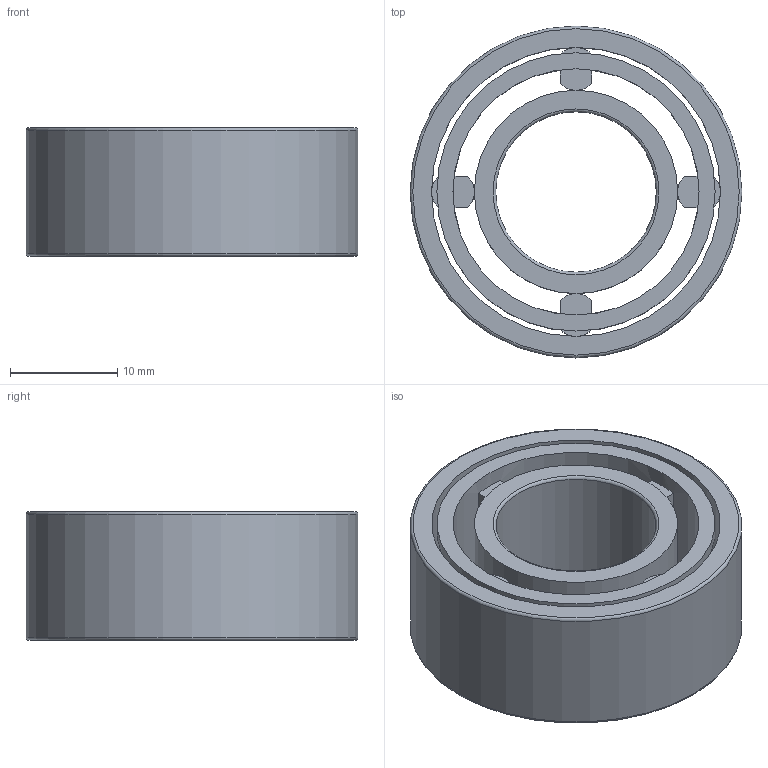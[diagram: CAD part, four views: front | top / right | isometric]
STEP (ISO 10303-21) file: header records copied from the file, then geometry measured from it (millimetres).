
FILE_DESCRIPTION(/* description */ (''),/* implementation_level */ '2;1');
FILE_NAME(/* name */ '300591 FR 427 M.stp',/* time_stamp */ '2016-11-03T15:39:59+01:00',/* author */ (''),/* organization */ (''),/* preprocessor_version */ 'ST-DEVELOPER v15',/* originating_system */ 'SIEMENS PLM Software NX 8.5',/* authorisation */ '');
FILE_SCHEMA (('CONFIG_CONTROL_DESIGN'));
Length unit declared in the file: millimetre
Products named in the file (2): ATE0000080_01; ATE0000084_01
Assembly tree (1 placements, depth 2):
  ATE0000084_01
    ATE0000080_01
Bounding box: 31 x 31 x 12 mm (x, y, z)
Volume: 4724.7 mm3; surface area: 6351.6 mm2
Topology: 3 solids, 3 shells, 60 faces, 134 edges, 88 vertices
Faces by surface type: plane 40, cylinder 16, torus 4
Full cylindrical faces by diameter (mm): 15 x1, 19 x1, 23 x1, 25 x1, 26 x2, 27 x1, 31 x1
Entity records: 1777 total; most frequent: DIRECTION 292, CARTESIAN_POINT 262, ORIENTED_EDGE 232, EDGE_CURVE 116, AXIS2_PLACEMENT_3D 114, EDGE_LOOP 88, VERTEX_POINT 84, LINE 64
